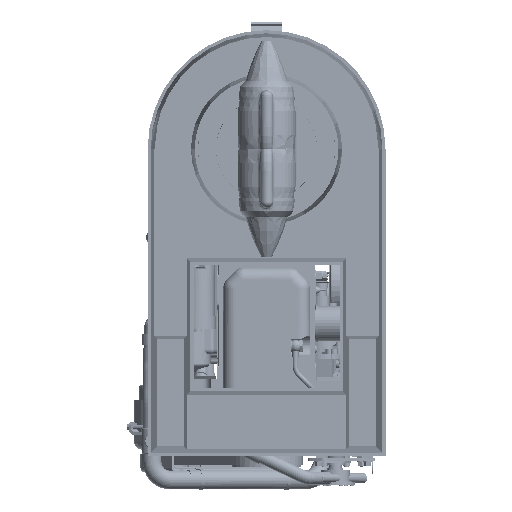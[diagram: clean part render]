
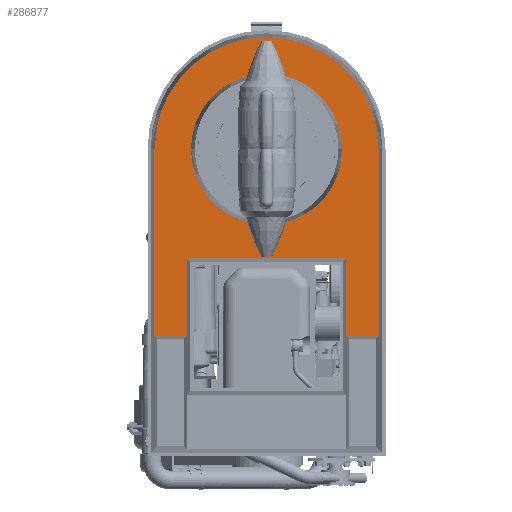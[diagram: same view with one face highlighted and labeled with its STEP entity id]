
A CAD part, front view. The second image highlights one B-rep face of the part: STEP entity #286877.
In plain terms, the highlighted planar face has unit normal (0, -1, 0).
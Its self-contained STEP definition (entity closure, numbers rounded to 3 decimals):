
#286105=DIRECTION('',(0.,0.,-1.));
#286106=VECTOR('',#286105,149.123);
#286107=CARTESIAN_POINT('',(153.929,-203.,61.194));
#286108=LINE('',#286107,#286106);
#286125=DIRECTION('',(1.,0.,0.));
#286126=VECTOR('',#286125,307.858);
#286127=CARTESIAN_POINT('',(-153.929,-203.,61.194));
#286128=LINE('',#286127,#286126);
#286141=DIRECTION('',(0.,0.,1.));
#286142=VECTOR('',#286141,149.123);
#286143=CARTESIAN_POINT('',(-153.929,-203.,-87.929));
#286144=LINE('',#286143,#286142);
#286221=DIRECTION('',(-1.,0.,0.));
#286222=VECTOR('',#286221,62.142);
#286223=CARTESIAN_POINT('',(-153.929,-203.,-87.929));
#286224=LINE('',#286223,#286222);
#286225=DIRECTION('',(0.,0.,1.));
#286226=VECTOR('',#286225,359.429);
#286227=CARTESIAN_POINT('',(-216.071,-203.,-87.929));
#286228=LINE('',#286227,#286226);
#286229=CARTESIAN_POINT('',(0.,-203.,271.5));
#286230=DIRECTION('',(0.,1.,0.));
#286231=DIRECTION('',(-1.,0.,0.));
#286232=AXIS2_PLACEMENT_3D('',#286229,#286230,#286231);
#286234=DIRECTION('',(0.,0.,-1.));
#286235=VECTOR('',#286234,359.429);
#286236=CARTESIAN_POINT('',(216.071,-203.,271.5));
#286237=LINE('',#286236,#286235);
#286238=DIRECTION('',(-1.,0.,0.));
#286239=VECTOR('',#286238,62.142);
#286240=CARTESIAN_POINT('',(216.071,-203.,-87.929));
#286241=LINE('',#286240,#286239);
#286242=CARTESIAN_POINT('',(0.,-203.,271.5));
#286243=DIRECTION('',(0.,-1.,0.));
#286244=DIRECTION('',(1.,0.,0.));
#286245=AXIS2_PLACEMENT_3D('',#286242,#286243,#286244);
#286247=CARTESIAN_POINT('',(0.,-203.,271.5));
#286248=DIRECTION('',(0.,-1.,0.));
#286249=DIRECTION('',(-1.,0.,0.));
#286250=AXIS2_PLACEMENT_3D('',#286247,#286248,#286249);
#286491=CARTESIAN_POINT('',(153.929,-203.,61.194));
#286492=VERTEX_POINT('',#286491);
#286493=CARTESIAN_POINT('',(153.929,-203.,-87.929));
#286494=VERTEX_POINT('',#286493);
#286503=CARTESIAN_POINT('',(-153.929,-203.,61.194));
#286504=VERTEX_POINT('',#286503);
#286513=CARTESIAN_POINT('',(-153.929,-203.,-87.929));
#286514=VERTEX_POINT('',#286513);
#286519=CARTESIAN_POINT('',(-216.071,-203.,271.5));
#286520=VERTEX_POINT('',#286519);
#286521=CARTESIAN_POINT('',(-216.071,-203.,-87.929));
#286522=VERTEX_POINT('',#286521);
#286525=CARTESIAN_POINT('',(216.071,-203.,271.5));
#286526=VERTEX_POINT('',#286525);
#286529=CARTESIAN_POINT('',(216.071,-203.,-87.929));
#286530=VERTEX_POINT('',#286529);
#286531=CARTESIAN_POINT('',(145.694,-203.,271.5));
#286532=CARTESIAN_POINT('',(-145.694,-203.,271.5));
#286533=VERTEX_POINT('',#286531);
#286534=VERTEX_POINT('',#286532);
#286855=CARTESIAN_POINT('',(0.,-203.,271.5));
#286856=DIRECTION('',(0.,-1.,0.));
#286857=DIRECTION('',(1.,0.,0.));
#286858=AXIS2_PLACEMENT_3D('',#286855,#286856,#286857);
#286859=PLANE('',#286858);
#286860=ORIENTED_EDGE('',*,*,#286728,.F.);
#286862=ORIENTED_EDGE('',*,*,#286861,.T.);
#286863=ORIENTED_EDGE('',*,*,#286788,.T.);
#286864=ORIENTED_EDGE('',*,*,#286806,.T.);
#286865=ORIENTED_EDGE('',*,*,#286823,.T.);
#286866=ORIENTED_EDGE('',*,*,#286847,.T.);
#286867=ORIENTED_EDGE('',*,*,#286683,.F.);
#286868=ORIENTED_EDGE('',*,*,#286706,.F.);
#286869=EDGE_LOOP('',(#286860,#286862,#286863,#286864,#286865,#286866,#286867,
#286868));
#286870=FACE_OUTER_BOUND('',#286869,.F.);
#286872=ORIENTED_EDGE('',*,*,#286871,.T.);
#286874=ORIENTED_EDGE('',*,*,#286873,.T.);
#286875=EDGE_LOOP('',(#286872,#286874));
#286876=FACE_BOUND('',#286875,.F.);
#286877=ADVANCED_FACE('',(#286870,#286876),#286859,.T.);
#286233=CIRCLE('',#286232,216.071);
#286246=CIRCLE('',#286245,145.694);
#286251=CIRCLE('',#286250,145.694);
#286683=EDGE_CURVE('',#286492,#286494,#286108,.T.);
#286706=EDGE_CURVE('',#286504,#286492,#286128,.T.);
#286728=EDGE_CURVE('',#286514,#286504,#286144,.T.);
#286788=EDGE_CURVE('',#286522,#286520,#286228,.T.);
#286806=EDGE_CURVE('',#286520,#286526,#286233,.T.);
#286823=EDGE_CURVE('',#286526,#286530,#286237,.T.);
#286847=EDGE_CURVE('',#286530,#286494,#286241,.T.);
#286861=EDGE_CURVE('',#286514,#286522,#286224,.T.);
#286871=EDGE_CURVE('',#286533,#286534,#286246,.T.);
#286873=EDGE_CURVE('',#286534,#286533,#286251,.T.);
